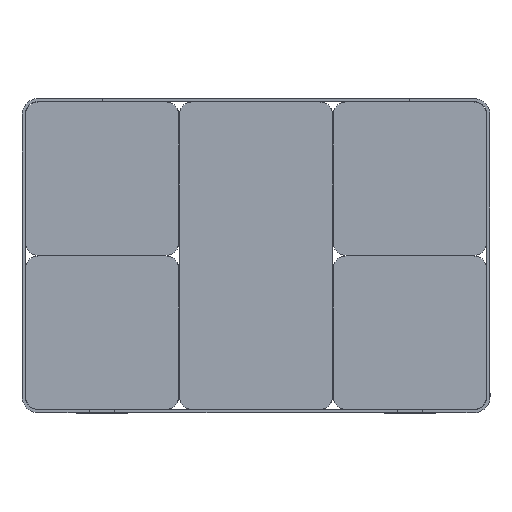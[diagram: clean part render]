
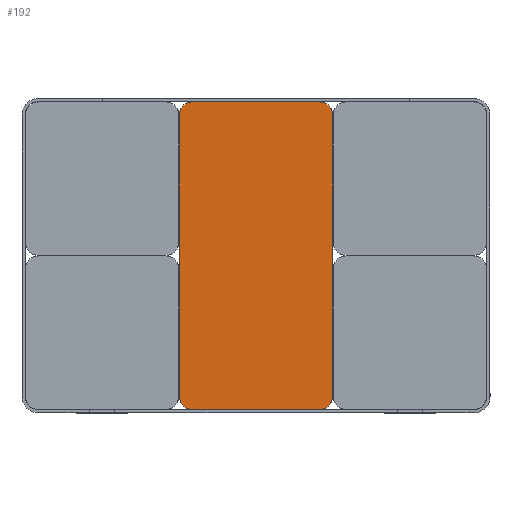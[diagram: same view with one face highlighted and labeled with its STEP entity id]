
A CAD part, front view. The second image highlights one B-rep face of the part: STEP entity #192.
In plain terms, the highlighted planar face has unit normal (-0.001, -1, 0) as drawn and (-1, 0, 0) by its records, which use the part's own axes.
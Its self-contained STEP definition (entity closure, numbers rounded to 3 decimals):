
#32=(
BOUNDED_CURVE()
B_SPLINE_CURVE(1,(#6696,#6697),.UNSPECIFIED.,.F.,.F.)
B_SPLINE_CURVE_WITH_KNOTS((2,2),(501.59,924.64),
 .UNSPECIFIED.)
CURVE()
GEOMETRIC_REPRESENTATION_ITEM()
RATIONAL_B_SPLINE_CURVE((1.,1.))
REPRESENTATION_ITEM('')
);
#33=(
BOUNDED_CURVE()
B_SPLINE_CURVE(1,(#6705,#6706),.UNSPECIFIED.,.F.,.F.)
B_SPLINE_CURVE_WITH_KNOTS((2,2),(1003.18,1426.23),
 .UNSPECIFIED.)
CURVE()
GEOMETRIC_REPRESENTATION_ITEM()
RATIONAL_B_SPLINE_CURVE((1.,1.))
REPRESENTATION_ITEM('')
);
#34=(
BOUNDED_CURVE()
B_SPLINE_CURVE(1,(#6714,#6715),.UNSPECIFIED.,.F.,.F.)
B_SPLINE_CURVE_WITH_KNOTS((2,2),(2029.82,2452.87),
 .UNSPECIFIED.)
CURVE()
GEOMETRIC_REPRESENTATION_ITEM()
RATIONAL_B_SPLINE_CURVE((1.,1.))
REPRESENTATION_ITEM('')
);
#35=(
BOUNDED_CURVE()
B_SPLINE_CURVE(1,(#6723,#6724),.UNSPECIFIED.,.F.,.F.)
B_SPLINE_CURVE_WITH_KNOTS((2,2),(2531.41,2954.46),
 .UNSPECIFIED.)
CURVE()
GEOMETRIC_REPRESENTATION_ITEM()
RATIONAL_B_SPLINE_CURVE((1.,1.))
REPRESENTATION_ITEM('')
);
#192=ADVANCED_FACE('',(#510),#4429,.T.);
#510=FACE_OUTER_BOUND('',#796,.T.);
#796=EDGE_LOOP('',(#1287,#1288,#1289,#1290,#1291,#1292,#1293,#1294));
#1287=ORIENTED_EDGE('',*,*,#2472,.F.);
#1288=ORIENTED_EDGE('',*,*,#2470,.F.);
#1289=ORIENTED_EDGE('',*,*,#2468,.F.);
#1290=ORIENTED_EDGE('',*,*,#2466,.F.);
#1291=ORIENTED_EDGE('',*,*,#2464,.F.);
#1292=ORIENTED_EDGE('',*,*,#2462,.F.);
#1293=ORIENTED_EDGE('',*,*,#2460,.F.);
#1294=ORIENTED_EDGE('',*,*,#2458,.F.);
#2458=EDGE_CURVE('',#3952,#3953,#3041,.T.);
#2460=EDGE_CURVE('',#3953,#3954,#32,.T.);
#2462=EDGE_CURVE('',#3954,#3955,#3042,.T.);
#2464=EDGE_CURVE('',#3955,#3956,#33,.T.);
#2466=EDGE_CURVE('',#3956,#3957,#3043,.T.);
#2468=EDGE_CURVE('',#3957,#3958,#34,.T.);
#2470=EDGE_CURVE('',#3958,#3959,#3044,.T.);
#2472=EDGE_CURVE('',#3959,#3952,#35,.T.);
#3041=TRIMMED_CURVE($,#3281,(#6692),(#6693),.T.,.CARTESIAN.);
#3042=TRIMMED_CURVE($,#3282,(#6701),(#6702),.T.,.CARTESIAN.);
#3043=TRIMMED_CURVE($,#3283,(#6710),(#6711),.T.,.CARTESIAN.);
#3044=TRIMMED_CURVE($,#3284,(#6719),(#6720),.T.,.CARTESIAN.);
#3281=CIRCLE('',#4909,50.);
#3282=CIRCLE('',#4910,50.);
#3283=CIRCLE('',#4911,50.);
#3284=CIRCLE('',#4912,50.);
#3952=VERTEX_POINT('',#6629);
#3953=VERTEX_POINT('',#6630);
#3954=VERTEX_POINT('',#6631);
#3955=VERTEX_POINT('',#6632);
#3956=VERTEX_POINT('',#6633);
#3957=VERTEX_POINT('',#6634);
#3958=VERTEX_POINT('',#6635);
#3959=VERTEX_POINT('',#6636);
#4429=PLANE('',#4880);
#4880=AXIS2_PLACEMENT_3D('',#6596,#5405,$);
#4909=AXIS2_PLACEMENT_3D($,#6691,#5438,#5439);
#4910=AXIS2_PLACEMENT_3D($,#6700,#5440,#5441);
#4911=AXIS2_PLACEMENT_3D($,#6709,#5442,#5443);
#4912=AXIS2_PLACEMENT_3D($,#6718,#5444,#5445);
#5405=DIRECTION('',(-1.,0.,0.));
#5438=DIRECTION('',(1.,0.,0.));
#5439=DIRECTION('',(0.,0.,-1.));
#5440=DIRECTION('',(1.,0.,0.));
#5441=DIRECTION('',(0.,1.,0.));
#5442=DIRECTION('',(1.,0.,0.));
#5443=DIRECTION('',(0.,0.,1.));
#5444=DIRECTION('',(1.,0.,0.));
#5445=DIRECTION('',(0.,-1.,0.));
#6596=CARTESIAN_POINT('',(0.,610.98,-603.98));
#6629=CARTESIAN_POINT('',(0.,549.,-598.));
#6630=CARTESIAN_POINT('',(0.,599.,-548.));
#6631=CARTESIAN_POINT('',(0.,599.,-50.));
#6632=CARTESIAN_POINT('',(0.,549.,0.));
#6633=CARTESIAN_POINT('',(0.,-549.,0.));
#6634=CARTESIAN_POINT('',(0.,-599.,-50.));
#6635=CARTESIAN_POINT('',(0.,-599.,-548.));
#6636=CARTESIAN_POINT('',(0.,-549.,-598.));
#6691=CARTESIAN_POINT('',(0.,549.,-548.));
#6692=CARTESIAN_POINT('',(0.,549.,-598.));
#6693=CARTESIAN_POINT('',(0.,599.,-548.));
#6696=CARTESIAN_POINT('',(0.,599.,-548.));
#6697=CARTESIAN_POINT('',(0.,599.,-50.));
#6700=CARTESIAN_POINT('',(0.,549.,-50.));
#6701=CARTESIAN_POINT('',(0.,599.,-50.));
#6702=CARTESIAN_POINT('',(0.,549.,0.));
#6705=CARTESIAN_POINT('',(0.,549.,0.));
#6706=CARTESIAN_POINT('',(0.,-549.,0.));
#6709=CARTESIAN_POINT('',(0.,-549.,-50.));
#6710=CARTESIAN_POINT('',(0.,-549.,0.));
#6711=CARTESIAN_POINT('',(0.,-599.,-50.));
#6714=CARTESIAN_POINT('',(0.,-599.,-50.));
#6715=CARTESIAN_POINT('',(0.,-599.,-548.));
#6718=CARTESIAN_POINT('',(0.,-549.,-548.));
#6719=CARTESIAN_POINT('',(0.,-599.,-548.));
#6720=CARTESIAN_POINT('',(0.,-549.,-598.));
#6723=CARTESIAN_POINT('',(0.,-549.,-598.));
#6724=CARTESIAN_POINT('',(0.,549.,-598.));
